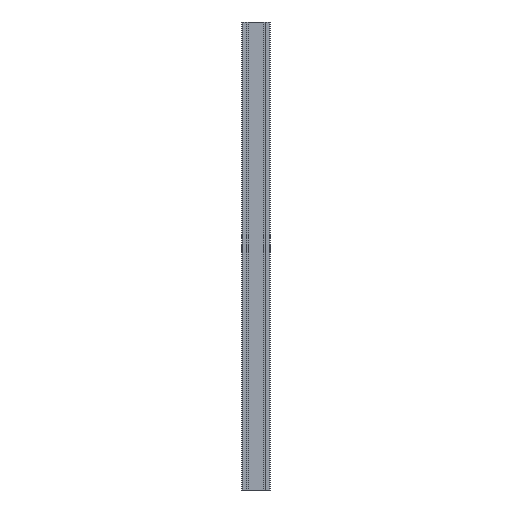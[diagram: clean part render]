
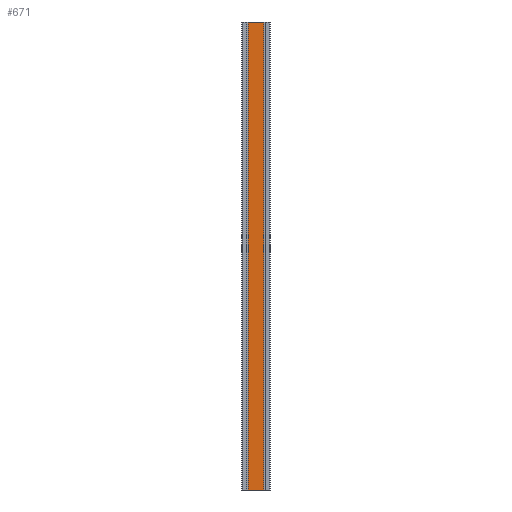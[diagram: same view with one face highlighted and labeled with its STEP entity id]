
A CAD part, left-side view. The second image highlights one B-rep face of the part: STEP entity #671.
In plain terms, the highlighted planar face has unit normal (-1, 0, 0).
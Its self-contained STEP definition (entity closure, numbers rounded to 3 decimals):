
#69 = PLANE ( 'NONE',  #706 ) ;
#75 = DIRECTION ( 'NONE',  ( 0., -1., 0. ) ) ;
#76 = LINE ( 'NONE', #296, #549 ) ;
#92 = EDGE_LOOP ( 'NONE', ( #163, #808, #923, #401 ) ) ;
#151 = EDGE_CURVE ( 'NONE', #440, #312, #229, .T. ) ;
#159 = VERTEX_POINT ( 'NONE', #825 ) ;
#163 = ORIENTED_EDGE ( 'NONE', *, *, #583, .F. ) ;
#193 = EDGE_CURVE ( 'NONE', #253, #440, #76, .T. ) ;
#224 = CARTESIAN_POINT ( 'NONE',  ( -3.5, 8.5, 250. ) ) ;
#228 = LINE ( 'NONE', #448, #938 ) ;
#229 = LINE ( 'NONE', #529, #615 ) ;
#236 = CARTESIAN_POINT ( 'NONE',  ( -3.5, 8.5, -250. ) ) ;
#243 = CARTESIAN_POINT ( 'NONE',  ( -3.5, -8.5, 250. ) ) ;
#253 = VERTEX_POINT ( 'NONE', #761 ) ;
#289 = DIRECTION ( 'NONE',  ( 0., -1., 0. ) ) ;
#296 = CARTESIAN_POINT ( 'NONE',  ( -3.5, 8.5, -250. ) ) ;
#312 = VERTEX_POINT ( 'NONE', #243 ) ;
#350 = CARTESIAN_POINT ( 'NONE',  ( -3.5, -8.5, -250. ) ) ;
#401 = ORIENTED_EDGE ( 'NONE', *, *, #151, .T. ) ;
#440 = VERTEX_POINT ( 'NONE', #350 ) ;
#448 = CARTESIAN_POINT ( 'NONE',  ( -3.5, 8.5, -250. ) ) ;
#519 = DIRECTION ( 'NONE',  ( 0., -1., 0. ) ) ;
#525 = DIRECTION ( 'NONE',  ( 0., 0., 1. ) ) ;
#529 = CARTESIAN_POINT ( 'NONE',  ( -3.5, -8.5, -250. ) ) ;
#549 = VECTOR ( 'NONE', #519, 1000. ) ;
#583 = EDGE_CURVE ( 'NONE', #159, #312, #987, .T. ) ;
#615 = VECTOR ( 'NONE', #670, 1000. ) ;
#660 = FACE_OUTER_BOUND ( 'NONE', #92, .T. ) ;
#667 = EDGE_CURVE ( 'NONE', #253, #159, #228, .T. ) ;
#670 = DIRECTION ( 'NONE',  ( 0., 0., 1. ) ) ;
#671 = ADVANCED_FACE ( 'NONE', ( #660 ), #69, .T. ) ;
#706 = AXIS2_PLACEMENT_3D ( 'NONE', #236, #829, #75 ) ;
#761 = CARTESIAN_POINT ( 'NONE',  ( -3.5, 8.5, -250. ) ) ;
#808 = ORIENTED_EDGE ( 'NONE', *, *, #667, .F. ) ;
#825 = CARTESIAN_POINT ( 'NONE',  ( -3.5, 8.5, 250. ) ) ;
#829 = DIRECTION ( 'NONE',  ( -1., 0., 0. ) ) ;
#920 = VECTOR ( 'NONE', #289, 1000. ) ;
#923 = ORIENTED_EDGE ( 'NONE', *, *, #193, .T. ) ;
#938 = VECTOR ( 'NONE', #525, 1000. ) ;
#987 = LINE ( 'NONE', #224, #920 ) ;
